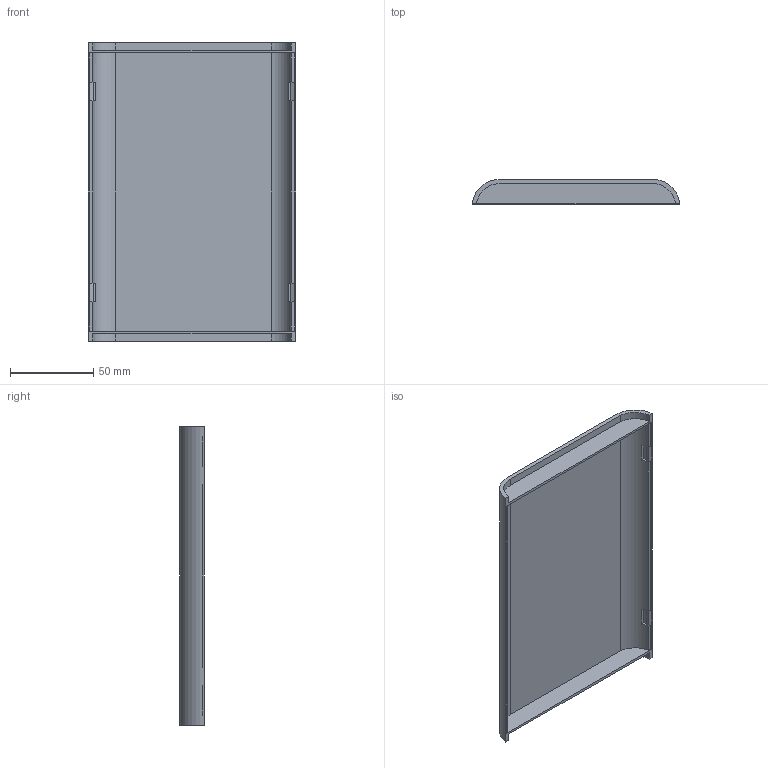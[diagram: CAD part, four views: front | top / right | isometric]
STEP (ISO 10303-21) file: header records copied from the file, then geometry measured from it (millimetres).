
FILE_DESCRIPTION((''),'2;1');
FILE_NAME('E:\Eng\Customer Service\Drawings\1597\STEP\1597D Lid.stp','2010-11-01T15:47:43',('tcook'),(''),'Autodesk Inventor 2011','Autodesk Inventor 2011','');
FILE_SCHEMA(('AUTOMOTIVE_DESIGN { 1 0 10303 214 1 1 1 1 }'));
Length unit declared in the file: inch
Products named in the file (1): 1597D Lid
Bounding box: 124.84 x 14.73 x 179.58 mm (x, y, z)
Volume: 65529.8 mm3; surface area: 56401.4 mm2
Topology: 1 solids, 1 shells, 61 faces, 150 edges, 96 vertices
Faces by surface type: plane 49, cylinder 12
Entity records: 1808 total; most frequent: CARTESIAN_POINT 308, DIRECTION 306, ORIENTED_EDGE 300, EDGE_CURVE 150, VECTOR 118, LINE 118, VERTEX_POINT 96, AXIS2_PLACEMENT_3D 94
